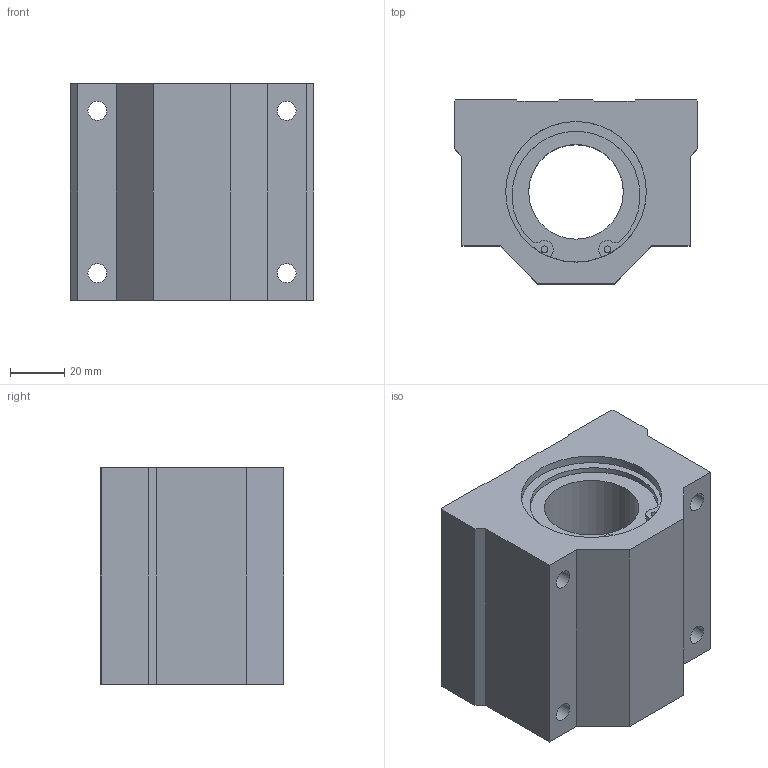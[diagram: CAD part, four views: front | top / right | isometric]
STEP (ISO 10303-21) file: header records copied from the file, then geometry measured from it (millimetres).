
FILE_DESCRIPTION(('STEP AP203'),'1');
FILE_NAME('//192.168.1.1/share/s-4 技術開発/s-4-4_CAD/s-4-4-3_見直し済み/008 修正済み/LC-A/LC-A_TOP/LC-35VAUU.step','2022-05-19T01:35:21',(' '),(' '),'Spatial InterOp 3D',' ',' ');
FILE_SCHEMA(('CONFIG_CONTROL_DESIGN'));
Length unit declared in the file: millimetre
Products named in the file (1): 1
Bounding box: 90 x 68 x 80 mm (x, y, z)
Volume: 323715.9 mm3; surface area: 46101.8 mm2
Topology: 1 solids, 1 shells, 65 faces, 175 edges, 118 vertices
Faces by surface type: plane 36, cylinder 29
Full cylindrical faces by diameter (mm): 2.5 x4, 7 x8, 35 x1, 52 x2
Entity records: 1956 total; most frequent: DIRECTION 338, CARTESIAN_POINT 324, ORIENTED_EDGE 300, EDGE_CURVE 150, AXIS2_PLACEMENT_3D 122, VERTEX_POINT 108, EDGE_LOOP 96, LINE 94
